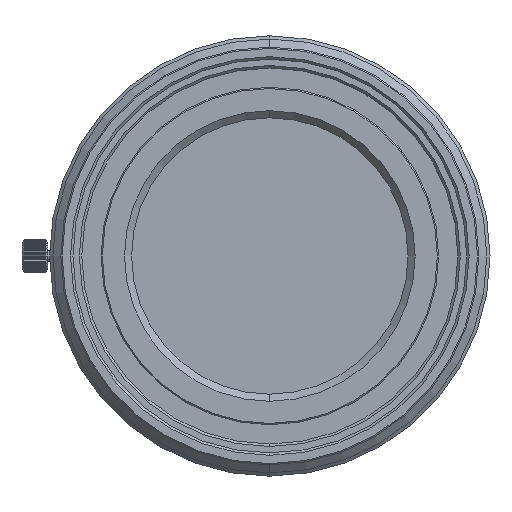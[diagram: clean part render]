
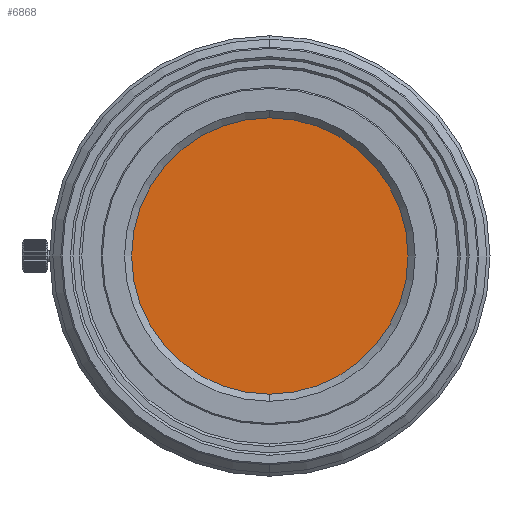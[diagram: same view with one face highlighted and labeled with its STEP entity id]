
A CAD part, left-side view. The second image highlights one B-rep face of the part: STEP entity #6868.
In plain terms, the highlighted planar face has unit normal (-1, 0, 0).
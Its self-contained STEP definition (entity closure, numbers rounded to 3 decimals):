
#60 = ORIENTED_EDGE ( 'NONE', *, *, #5365, .F. ) ;
#97 = AXIS2_PLACEMENT_3D ( 'NONE', #6545, #2033, #3678 ) ;
#239 = CARTESIAN_POINT ( 'NONE',  ( -103.533, 0., 21.7 ) ) ;
#981 = AXIS2_PLACEMENT_3D ( 'NONE', #6263, #1854, #3400 ) ;
#1854 = DIRECTION ( 'NONE',  ( 1., 0., 0. ) ) ;
#2033 = DIRECTION ( 'NONE',  ( 1., 0., 0. ) ) ;
#2796 = EDGE_LOOP ( 'NONE', ( #60, #8776 ) ) ;
#3069 = VERTEX_POINT ( 'NONE', #239 ) ;
#3400 = DIRECTION ( 'NONE',  ( 0., 0., -1. ) ) ;
#3482 = CARTESIAN_POINT ( 'NONE',  ( -103.533, 21.7, 0. ) ) ;
#3678 = DIRECTION ( 'NONE',  ( 0., 0., -1. ) ) ;
#4212 = DIRECTION ( 'NONE',  ( 0., 0., 1. ) ) ;
#4895 = FACE_OUTER_BOUND ( 'NONE', #2796, .T. ) ;
#5347 = CIRCLE ( 'NONE', #97, 21.7 ) ;
#5365 = EDGE_CURVE ( 'NONE', #7223, #3069, #8114, .T. ) ;
#5673 = PLANE ( 'NONE',  #6172 ) ;
#5875 = EDGE_CURVE ( 'NONE', #3069, #7223, #5347, .T. ) ;
#6172 = AXIS2_PLACEMENT_3D ( 'NONE', #3482, #6450, #4212 ) ;
#6263 = CARTESIAN_POINT ( 'NONE',  ( -103.533, 0., 0. ) ) ;
#6450 = DIRECTION ( 'NONE',  ( -1., 0., 0. ) ) ;
#6545 = CARTESIAN_POINT ( 'NONE',  ( -103.533, 0., 0. ) ) ;
#6733 = CARTESIAN_POINT ( 'NONE',  ( -103.533, 0., -21.7 ) ) ;
#6868 = ADVANCED_FACE ( 'NONE', ( #4895 ), #5673, .T. ) ;
#7223 = VERTEX_POINT ( 'NONE', #6733 ) ;
#8114 = CIRCLE ( 'NONE', #981, 21.7 ) ;
#8776 = ORIENTED_EDGE ( 'NONE', *, *, #5875, .F. ) ;
